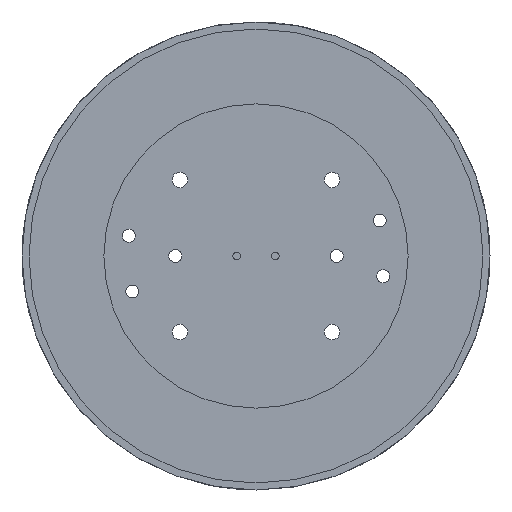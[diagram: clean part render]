
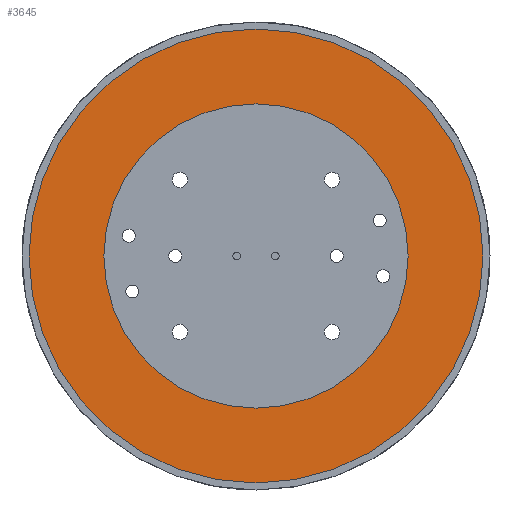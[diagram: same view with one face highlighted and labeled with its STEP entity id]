
A CAD part, front view. The second image highlights one B-rep face of the part: STEP entity #3645.
In plain terms, the highlighted planar face has unit normal (0, -1, 0).
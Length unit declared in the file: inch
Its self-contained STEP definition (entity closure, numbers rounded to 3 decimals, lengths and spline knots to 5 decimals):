
#24 = VERTEX_POINT ( 'NONE', #75 ) ;
#75 = CARTESIAN_POINT ( 'NONE',  ( 0., 0.31496, 2.55955 ) ) ;
#101 = DIRECTION ( 'NONE',  ( 0., 0., -1. ) ) ;
#238 = ORIENTED_EDGE ( 'NONE', *, *, #2765, .T. ) ;
#314 = EDGE_CURVE ( 'NONE', #5821, #24, #2197, .T. ) ;
#1188 = PLANE ( 'NONE',  #6242 ) ;
#1412 = CARTESIAN_POINT ( 'NONE',  ( 0., 0.31496, 0. ) ) ;
#1927 = CARTESIAN_POINT ( 'NONE',  ( 0., 0.31496, 0. ) ) ;
#2042 = FACE_OUTER_BOUND ( 'NONE', #5654, .T. ) ;
#2146 = DIRECTION ( 'NONE',  ( 0., -1., 0. ) ) ;
#2197 = CIRCLE ( 'NONE', #4372, 2.55955 ) ;
#2377 = ORIENTED_EDGE ( 'NONE', *, *, #314, .F. ) ;
#2623 = CARTESIAN_POINT ( 'NONE',  ( 0., 0.31496, 3.8189 ) ) ;
#2738 = EDGE_CURVE ( 'NONE', #24, #5821, #5897, .T. ) ;
#2765 = EDGE_CURVE ( 'NONE', #3877, #8328, #2789, .T. ) ;
#2789 = CIRCLE ( 'NONE', #3395, 3.8189 ) ;
#3379 = EDGE_LOOP ( 'NONE', ( #2377, #7041 ) ) ;
#3395 = AXIS2_PLACEMENT_3D ( 'NONE', #6722, #2146, #6746 ) ;
#3645 = ADVANCED_FACE ( 'NONE', ( #3992, #2042 ), #1188, .T. ) ;
#3647 = CARTESIAN_POINT ( 'NONE',  ( 0., 0.31496, 0. ) ) ;
#3877 = VERTEX_POINT ( 'NONE', #2623 ) ;
#3992 = FACE_BOUND ( 'NONE', #3379, .T. ) ;
#4007 = CARTESIAN_POINT ( 'NONE',  ( 0., 0.31496, 0. ) ) ;
#4041 = DIRECTION ( 'NONE',  ( 0., -1., 0. ) ) ;
#4186 = EDGE_CURVE ( 'NONE', #8328, #3877, #8107, .T. ) ;
#4323 = DIRECTION ( 'NONE',  ( 0., 0., -1. ) ) ;
#4372 = AXIS2_PLACEMENT_3D ( 'NONE', #3647, #8272, #4323 ) ;
#5207 = DIRECTION ( 'NONE',  ( 0., -1., 0. ) ) ;
#5416 = DIRECTION ( 'NONE',  ( 0., -1., 0. ) ) ;
#5618 = AXIS2_PLACEMENT_3D ( 'NONE', #4007, #4041, #7296 ) ;
#5621 = CARTESIAN_POINT ( 'NONE',  ( 0., 0.31496, -3.8189 ) ) ;
#5654 = EDGE_LOOP ( 'NONE', ( #5664, #238 ) ) ;
#5664 = ORIENTED_EDGE ( 'NONE', *, *, #4186, .T. ) ;
#5756 = DIRECTION ( 'NONE',  ( 0., 0., -1. ) ) ;
#5821 = VERTEX_POINT ( 'NONE', #5968 ) ;
#5897 = CIRCLE ( 'NONE', #5618, 2.55955 ) ;
#5968 = CARTESIAN_POINT ( 'NONE',  ( 0., 0.31496, -2.55955 ) ) ;
#6242 = AXIS2_PLACEMENT_3D ( 'NONE', #1927, #5207, #5756 ) ;
#6722 = CARTESIAN_POINT ( 'NONE',  ( 0., 0.31496, 0. ) ) ;
#6746 = DIRECTION ( 'NONE',  ( 0., 0., -1. ) ) ;
#7041 = ORIENTED_EDGE ( 'NONE', *, *, #2738, .F. ) ;
#7161 = AXIS2_PLACEMENT_3D ( 'NONE', #1412, #5416, #101 ) ;
#7296 = DIRECTION ( 'NONE',  ( 0., 0., -1. ) ) ;
#8107 = CIRCLE ( 'NONE', #7161, 3.8189 ) ;
#8272 = DIRECTION ( 'NONE',  ( 0., -1., 0. ) ) ;
#8328 = VERTEX_POINT ( 'NONE', #5621 ) ;
